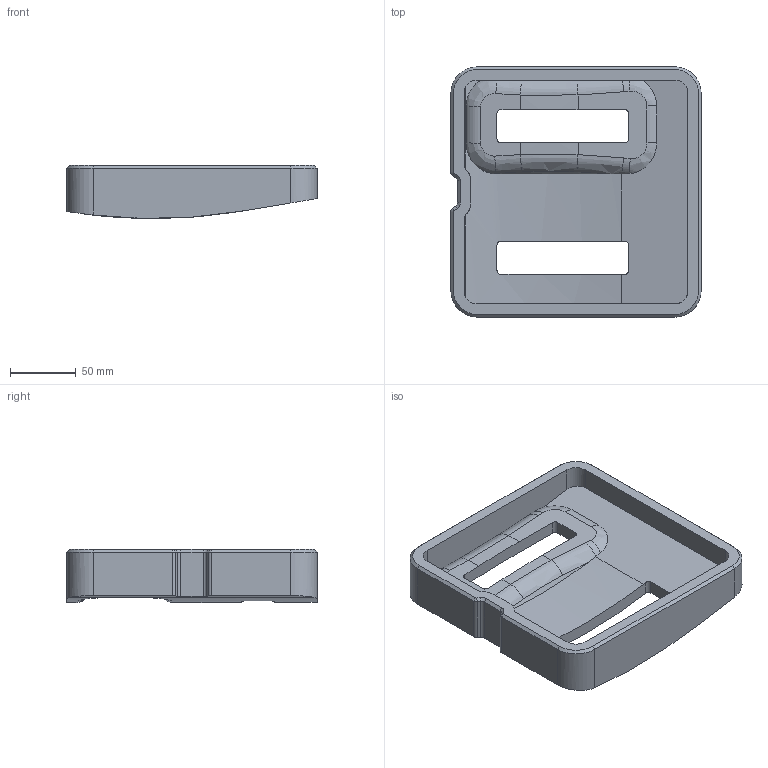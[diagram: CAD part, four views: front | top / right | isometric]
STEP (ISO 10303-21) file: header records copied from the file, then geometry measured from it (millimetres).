
FILE_DESCRIPTION(('CATIA V5 STEP Exchange'),'2;1');
FILE_NAME('C:\Users\nobody\Desktop\SHT0017073_ALL NEW-003 CNC.stp','2025-05-16T06:30:35+00:00',('none'),('none'),'CATIA Version 5 Release 20 GA (IN-10)','CATIA V5 STEP AP203 Edition 2','none');
FILE_SCHEMA(('AP203_CONFIGURATION_CONTROLLED_3D_DESIGN_OF_MECHANICAL_PARTS_AND_ASSEMBLIES_MIM_LF { 1 0 10303 403 2 1 2}'));
Length unit declared in the file: millimetre
Products named in the file (1): SHT0017073_ALL NEW-003 CNC
Bounding box: 190 x 190 x 40.29 mm (x, y, z)
Volume: 481774.7 mm3; surface area: 107261.1 mm2
Topology: 1 solids, 1 shells, 128 faces, 350 edges, 221 vertices
Faces by surface type: plane 43, cylinder 40, bspline 37, cone 8
Entity records: 8563 total; most frequent: CARTESIAN_POINT 5805, ORIENTED_EDGE 700, EDGE_CURVE 350, DIRECTION 340, VERTEX_POINT 221, B_SPLINE_CURVE_WITH_KNOTS 180, VECTOR 130, LINE 130
